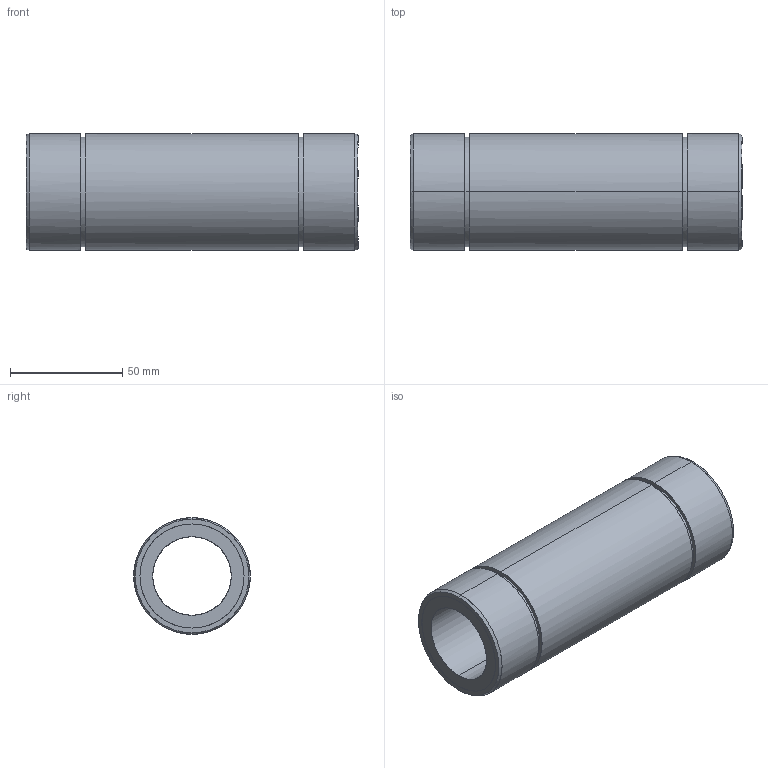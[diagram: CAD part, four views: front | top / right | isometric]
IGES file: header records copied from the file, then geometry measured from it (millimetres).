
Global section: file name: No Iges File Name specified; native system: AutoDesk Inventor R11.0; preprocessor: AutoDesk Inventor Iges Exporter R11.0; author: No Author specified; organization: No Organization specified; date: 20170921.114952; units: millimetre
Bounding box: 148 x 52 x 52 mm (x, y, z)
Surface area: 43524.1 mm2 (no closed solid volume)
Topology: 0 solids, 0 shells, 28 faces, 184 edges, 184 vertices
Faces by surface type: bspline 28
